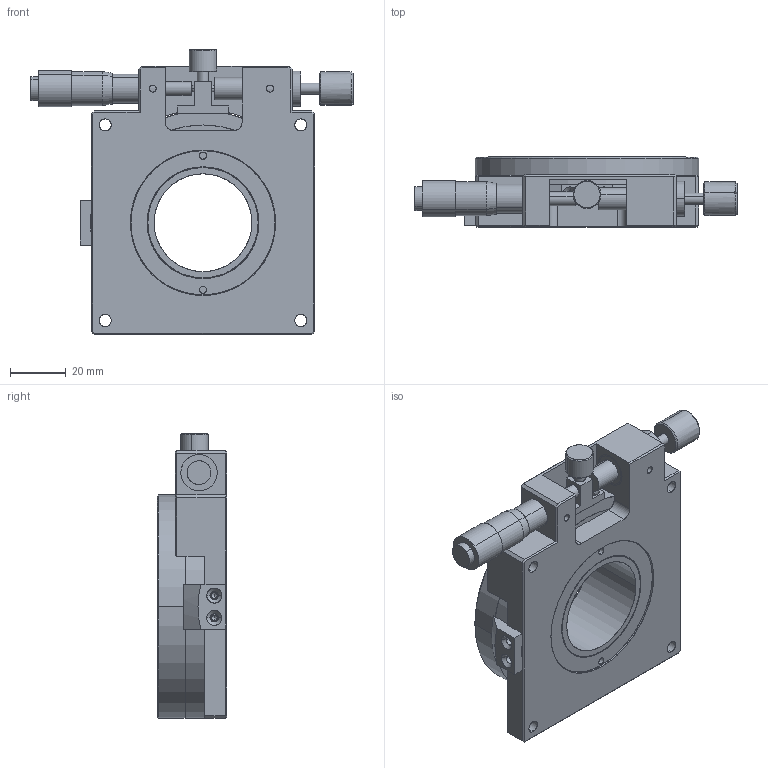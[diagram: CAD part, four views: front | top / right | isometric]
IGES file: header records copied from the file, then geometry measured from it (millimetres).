
Start section: SolidWorks IGES file using analytic representation for surfaces
Global section: file name: C:\Users\dubin\Desktop\0507\PT-SR80（根据三维和样本所画）\PT-SR80（1）\PT-SR80.IGS; native system: SolidWorks 2017; preprocessor: SolidWorks 2017; author: PDV; date: 230507.160207; units: millimetre
Bounding box: 115.32 x 25 x 102 mm (x, y, z)
Surface area: 57937.8 mm2 (no closed solid volume)
Topology: 0 solids, 0 shells, 517 faces, 9486 edges, 9462 vertices
Faces by surface type: bspline 313, revolution 204
